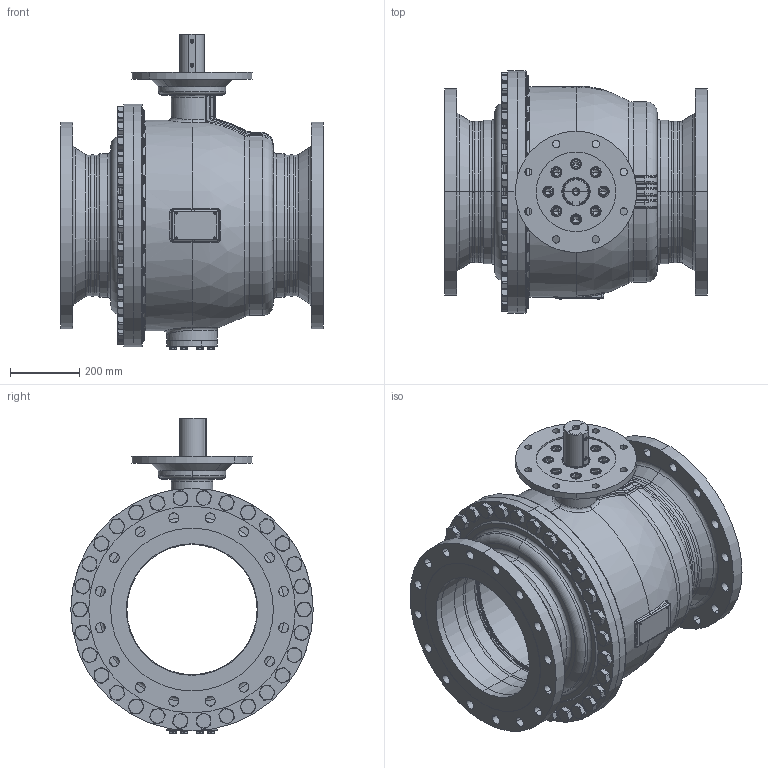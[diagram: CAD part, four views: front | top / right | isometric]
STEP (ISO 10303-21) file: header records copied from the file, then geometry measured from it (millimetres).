
FILE_DESCRIPTION((''),'2;1');
FILE_NAME('KHI-F_400_CL150-F30-P_SW0001','2026-02-05T16:41:46',('fischerkl'),('KLINGER'),'CREO PARAMETRIC BY PTC INC, 2023014','CREO PARAMETRIC BY PTC INC, 2023014','');
FILE_SCHEMA(('CONFIG_CONTROL_DESIGN'));
Products named in the file (1): KHI-F_400_CL150-F30-P_SW0001
Bounding box: 762 x 700 x 911.3 mm (x, y, z)
Volume: 57204201.1 mm3; surface area: 6928847.4 mm2
Topology: 1 solids, 4 shells, 3581 faces, 9022 edges, 5636 vertices
Faces by surface type: plane 1771, cylinder 861, cone 508, torus 311, bspline 99, sphere 31
Entity records: 153316 total; most frequent: CARTESIAN_POINT 68071, ORIENTED_EDGE 17992, DIRECTION 17656, EDGE_CURVE 8996, AXIS2_PLACEMENT_3D 6778, VERTEX_POINT 5636, VECTOR 4100, LINE 4100
